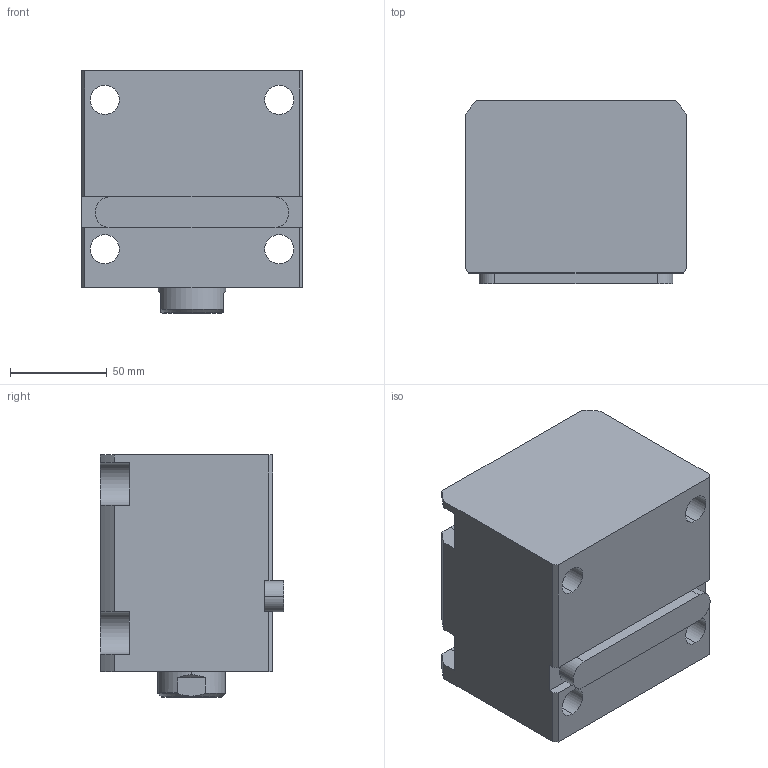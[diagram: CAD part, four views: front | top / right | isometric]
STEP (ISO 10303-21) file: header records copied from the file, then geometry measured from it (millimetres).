
FILE_DESCRIPTION (( 'STEP AP214' ), '1' );
FILE_NAME ('chtb-la63x45n_asm.STEP', '2018-05-02T09:00:04', ( 'Windows' ), ( 'Microsoft' ), 'SwSTEP 2.0', 'SolidWorks 2015', '' );
FILE_SCHEMA (( 'AUTOMOTIVE_DESIGN' ));
Length unit declared in the file: millimetre
Products named in the file (5): chtb-la63x45n_asm; CHTB-LA63X45NBT; CHTB-LA63PJ; CHTB63X45NHSG; CHTB-63QG
Assembly tree (4 placements, depth 2):
  chtb-la63x45n_asm
    CHTB-63QG
    CHTB63X45NHSG
    CHTB-LA63PJ
    CHTB-LA63X45NBT
Bounding box: 114 x 94.5 x 125 mm (x, y, z)
Volume: 962068.8 mm3; surface area: 148662.1 mm2
Topology: 4 solids, 4 shells, 174 faces, 510 edges, 348 vertices
Faces by surface type: cylinder 98, plane 45, bspline 12, cone 12, torus 7
Entity records: 18199 total; most frequent: CARTESIAN_POINT 13678, ORIENTED_EDGE 1008, DIRECTION 778, EDGE_CURVE 504, VERTEX_POINT 348, AXIS2_PLACEMENT_3D 295, EDGE_LOOP 198, LINE 188
